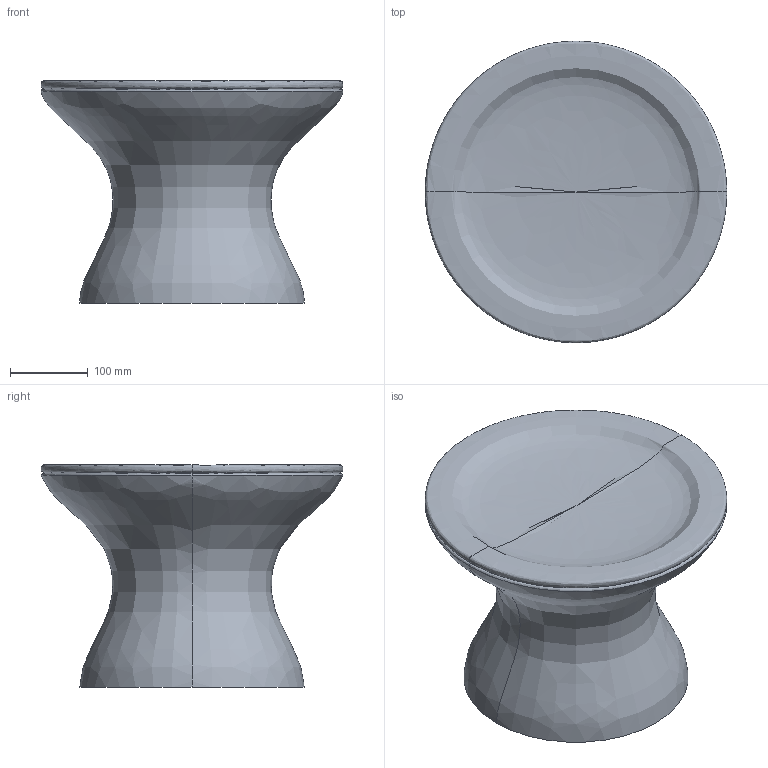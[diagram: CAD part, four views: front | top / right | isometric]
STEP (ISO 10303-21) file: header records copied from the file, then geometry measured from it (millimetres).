
FILE_DESCRIPTION(/* description */ (''),/* implementation_level */ '2;1');
FILE_NAME(/* name */ '28',/* time_stamp */ '2026-07-06T11:30:27+02:00',/* author */ (''),/* organization */ (''),/* preprocessor_version */ 'ST-DEVELOPER v19.2',/* originating_system */ 'Rhino 8.32',/* authorisation */ '');
FILE_SCHEMA (('CONFIG_CONTROL_DESIGN'));
Length unit declared in the file: millimetre
Products named in the file (1): Document
Bounding box: 388.19 x 388.12 x 286.42 mm (x, y, z)
Volume: 6869468.1 mm3; surface area: 859694.1 mm2
Topology: 2 solids, 2 shells, 17 faces, 34 edges, 18 vertices
Faces by surface type: bspline 14, plane 3
Entity records: 1685 total; most frequent: CARTESIAN_POINT 1317, ORIENTED_EDGE 60, DIRECTION 47, EDGE_CURVE 30, AXIS2_PLACEMENT_3D 25, TRIMMED_CURVE 20, CIRCLE 20, EDGE_LOOP 18
